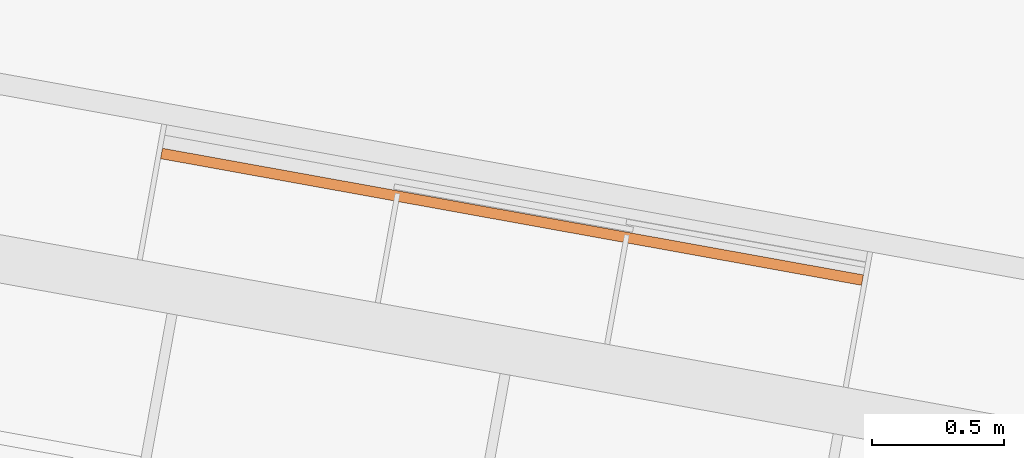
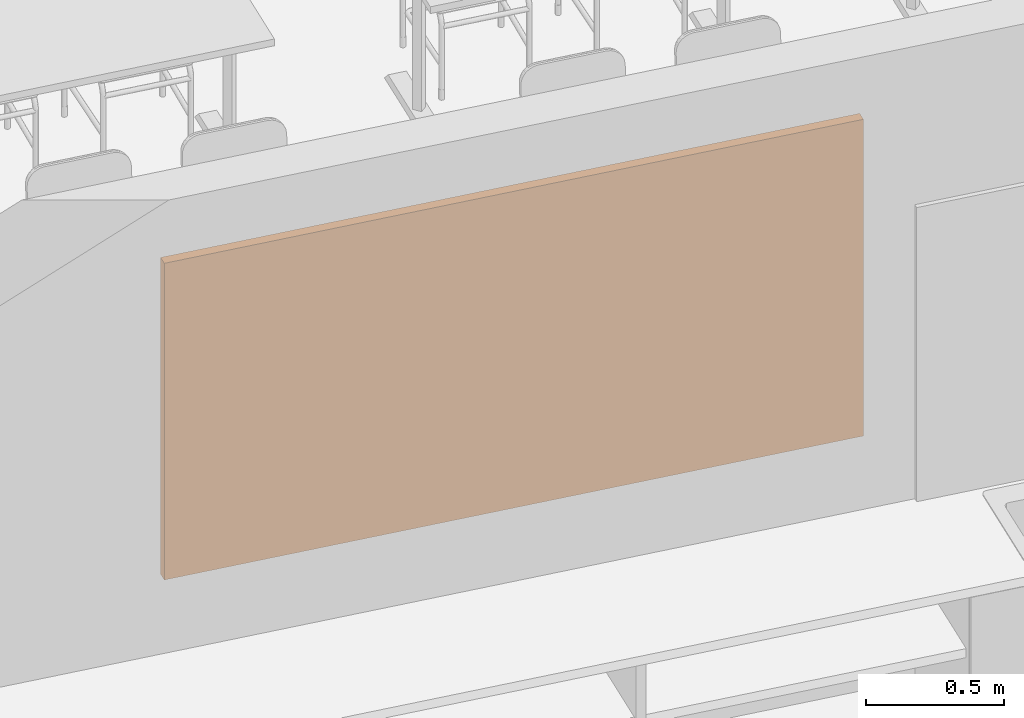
# One storey, part 26 of 79: 1 proxy.
"""IFC2X3 building model written with IfcOpenShell, lengths in metres."""

from ifc_helpers import new_model, entity, si_unit, converted_unit, derived_unit, money_unit, direction, frame, origin_with_axes, place, context, subcontext, project, spatial, polyline, outline, extrude, material, type_object, element, save


model = new_model("IFC2X3")

# Units and contexts
model_context = context("Model", 3, precision=1e-05, world=origin_with_axes(), true_north=direction((0.0, 1.0)))
body_context = subcontext(model_context, "Body", "Model", "MODEL_VIEW")
ifc_project = project(units=[si_unit("LENGTHUNIT", "METRE"), si_unit("AREAUNIT", "SQUARE_METRE"), si_unit("VOLUMEUNIT", "CUBIC_METRE"), converted_unit("PLANEANGLEUNIT", "DEGREE", entity("IfcPlaneAngleMeasure", 0.0174532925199), si_unit("PLANEANGLEUNIT", "RADIAN"), dimensions=[0, 0, 0, 0, 0, 0, 0]), money_unit("CHF"), converted_unit("TIMEUNIT", "Year", entity("IfcTimeMeasure", 31556926.0), si_unit("TIMEUNIT", "SECOND"), dimensions=[0, 0, 1, 0, 0, 0, 0]), si_unit("MASSUNIT", "GRAM", prefix="KILO"), si_unit("THERMODYNAMICTEMPERATUREUNIT", "DEGREE_CELSIUS"), si_unit("LUMINOUSINTENSITYUNIT", "LUMEN"), si_unit("ENERGYUNIT", "JOULE", prefix="MEGA"), derived_unit("THERMALCONDUCTANCEUNIT", [(si_unit("POWERUNIT", "WATT"), 1), (si_unit("LENGTHUNIT", "METRE"), -1), (si_unit("THERMODYNAMICTEMPERATUREUNIT", "KELVIN"), -1)]), derived_unit("SPECIFICHEATCAPACITYUNIT", [(si_unit("ENERGYUNIT", "JOULE"), 1), (si_unit("MASSUNIT", "GRAM", prefix="KILO"), -1), (si_unit("THERMODYNAMICTEMPERATUREUNIT", "KELVIN"), -1)]), derived_unit("MASSDENSITYUNIT", [(si_unit("MASSUNIT", "GRAM", prefix="KILO"), 1), (si_unit("VOLUMEUNIT", "CUBIC_METRE"), -1)])], contexts=[model_context])

# Site, building, storey
site_placement = place(None, frame((0.0, 0.0, 0.0), z_axis=(0.0, 0.0, 1.0), x_axis=(-0.177771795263, -0.984071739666, 0.0)))
site = spatial("IfcSite", under=ifc_project, at=site_placement, Name="Site", CompositionType="ELEMENT")
building_placement = place(site_placement, origin_with_axes())
building = spatial("IfcBuilding", under=site, at=building_placement, Name="Bâtiment", CompositionType="ELEMENT")
storey_placement = place(building_placement, origin_with_axes())
storey = spatial("IfcBuildingStorey", under=building, at=storey_placement, Name="RDC", CompositionType="ELEMENT", Elevation=0.0)

# Proxy
ifc_material = material(Name="_panneau mélaminé")
building_element_proxy_type = type_object("IfcBuildingElementProxyType", Name="_panneau mélaminé 40", PredefinedType="NOTDEFINED")
proxy_placement = place(storey_placement, frame((155.089841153, -151.107651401, 0.7), z_axis=(0.0, 0.0, 1.0), x_axis=(0.0, -1.0, 0.0)))
element("IfcBuildingElementProxy", 1, at=proxy_placement, inside=storey, type_object=building_element_proxy_type, material=ifc_material, Name="tableau-classe", context=body_context, shape_type="SweptSolid", body=[
    extrude(outline(polyline([(0.0095, 0.0), (2.6995, 0.0), (2.6995, 0.04), (0.0095, 0.04), (0.0095, 0.0)])), origin_with_axes(), (0.0, 0.0, 1.0), 1.4),
])

save(model, "model.ifc")
